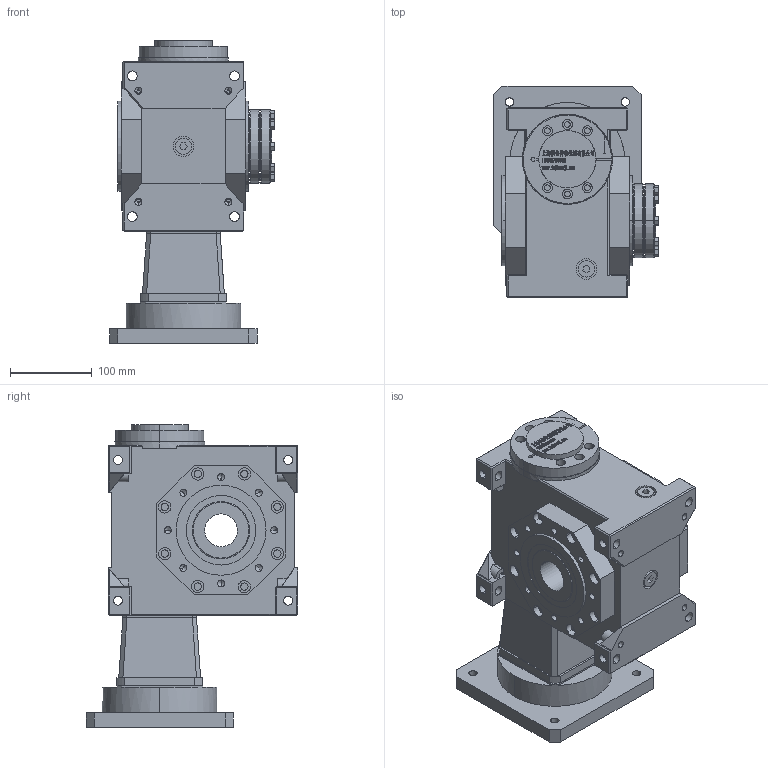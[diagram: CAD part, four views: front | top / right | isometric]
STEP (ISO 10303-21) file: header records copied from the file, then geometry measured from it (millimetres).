
FILE_DESCRIPTION (( 'STEP AP203' ), '1' );
FILE_NAME ('FXLB075-(5~90)-C1-35-114.3-200-M12.step', '2022-11-06T06:51:22', ( '' ), ( '' ), 'SwSTEP 2.0', 'SolidWorks 2020', '' );
FILE_SCHEMA (( 'CONFIG_CONTROL_DESIGN' ));
Length unit declared in the file: millimetre
Products named in the file (9): JDLB075-ST105________1.step; JDLB075-C1________40.step; FXLB075-(5~90)-C1-35-114.3-200-M12.step; ST180-114.3-200-M12____________075.step; FXLB075-(5~90)-C1-35-114.3-200-M12; 錨璃378^FXLB075-(5~90)-C1-35-114.3-200-M12; JDLB075-CR____.step; JDLB075-C1______-50-90-25.step; ______BD68-73.3-24-35____.step
Assembly tree (8 placements, depth 3):
  FXLB075-(5~90)-C1-35-114.3-200-M12
    FXLB075-(5~90)-C1-35-114.3-200-M12.step
      JDLB075-CR____.step
      JDLB075-C1________40.step
      JDLB075-ST105________1.step
      JDLB075-C1______-50-90-25.step
      ST180-114.3-200-M12____________075.step
      ______BD68-73.3-24-35____.step
    錨璃378^FXLB075-(5~90)-C1-35-114.3-200-M12
Bounding box: 201 x 259 x 370.2 mm (x, y, z)
Volume: 7467258.7 mm3; surface area: 698568.7 mm2
Topology: 85 solids, 85 shells, 2835 faces, 7361 edges, 4806 vertices
Faces by surface type: plane 1631, bspline 572, cylinder 498, cone 102, torus 32
Entity records: 117267 total; most frequent: CARTESIAN_POINT 50155, ORIENTED_EDGE 14602, DIRECTION 11725, EDGE_CURVE 7301, VECTOR 4943, LINE 4943, VERTEX_POINT 4806, AXIS2_PLACEMENT_3D 3391
